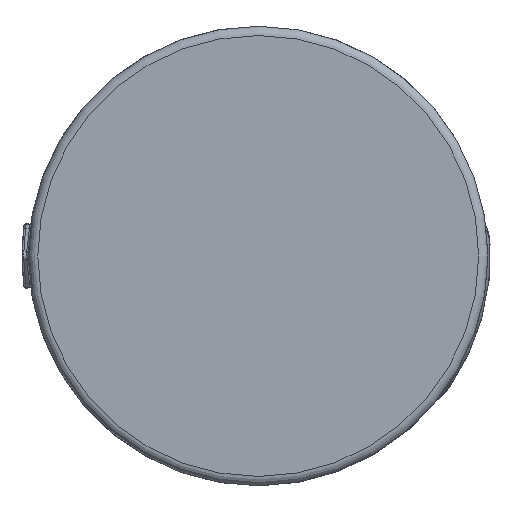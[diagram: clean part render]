
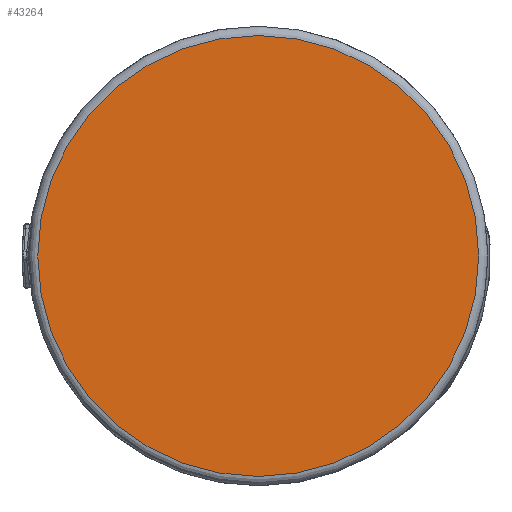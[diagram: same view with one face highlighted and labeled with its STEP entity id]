
A CAD part, left-side view. The second image highlights one B-rep face of the part: STEP entity #43264.
In plain terms, the highlighted planar face has unit normal (-1, 0, 0).
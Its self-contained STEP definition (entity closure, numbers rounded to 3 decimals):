
#5482 = DIRECTION ( 'NONE',  ( -1., 0., 0. ) ) ;
#5532 = DIRECTION ( 'NONE',  ( 0., 0., 1. ) ) ;
#6521 = EDGE_LOOP ( 'NONE', ( #31557 ) ) ;
#11768 = DIRECTION ( 'NONE',  ( 0., 0., 1. ) ) ;
#15107 = DIRECTION ( 'NONE',  ( -1., 0., 0. ) ) ;
#15435 = AXIS2_PLACEMENT_3D ( 'NONE', #25229, #15107, #11768 ) ;
#20286 = AXIS2_PLACEMENT_3D ( 'NONE', #27175, #5482, #5532 ) ;
#25229 = CARTESIAN_POINT ( 'NONE',  ( -183.5, 0., 0. ) ) ;
#25285 = FACE_OUTER_BOUND ( 'NONE', #6521, .T. ) ;
#25583 = CIRCLE ( 'NONE', #20286, 23.75 ) ;
#27175 = CARTESIAN_POINT ( 'NONE',  ( -183.5, 0., 0. ) ) ;
#31557 = ORIENTED_EDGE ( 'NONE', *, *, #35388, .T. ) ;
#35388 = EDGE_CURVE ( 'NONE', #42164, #42164, #25583, .T. ) ;
#40798 = PLANE ( 'NONE',  #15435 ) ;
#42164 = VERTEX_POINT ( 'NONE', #42725 ) ;
#42725 = CARTESIAN_POINT ( 'NONE',  ( -183.5, 0., 23.75 ) ) ;
#43264 = ADVANCED_FACE ( 'NONE', ( #25285 ), #40798, .T. ) ;
